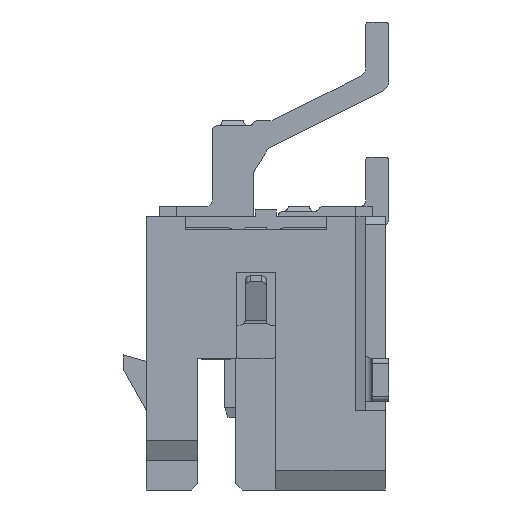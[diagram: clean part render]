
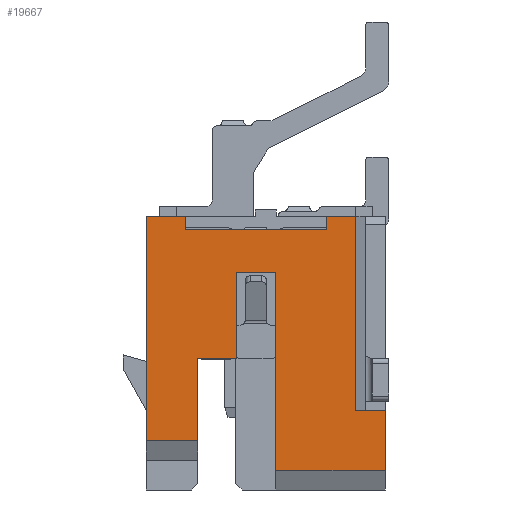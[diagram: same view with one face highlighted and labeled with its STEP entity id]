
A CAD part, front view. The second image highlights one B-rep face of the part: STEP entity #19667.
In plain terms, the highlighted planar face has unit normal (0, -1, 0).
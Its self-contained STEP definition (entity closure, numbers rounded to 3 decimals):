
#262 = EDGE_CURVE ( 'NONE', #23529, #38168, #24542, .T. ) ;
#322 = CARTESIAN_POINT ( 'NONE',  ( 4.67, 0.5, -9.5 ) ) ;
#1204 = ORIENTED_EDGE ( 'NONE', *, *, #16533, .T. ) ;
#1354 = DIRECTION ( 'NONE',  ( -1., 0., 0. ) ) ;
#1723 = ORIENTED_EDGE ( 'NONE', *, *, #39817, .F. ) ;
#2634 = DIRECTION ( 'NONE',  ( 1., 0., 0. ) ) ;
#2648 = VERTEX_POINT ( 'NONE', #7436 ) ;
#3170 = VERTEX_POINT ( 'NONE', #46085 ) ;
#4635 = VECTOR ( 'NONE', #38178, 1000. ) ;
#4806 = VERTEX_POINT ( 'NONE', #322 ) ;
#5258 = ORIENTED_EDGE ( 'NONE', *, *, #43968, .F. ) ;
#5313 = VERTEX_POINT ( 'NONE', #18651 ) ;
#5580 = LINE ( 'NONE', #36349, #14759 ) ;
#5999 = CARTESIAN_POINT ( 'NONE',  ( 8., 0.5, -9.5 ) ) ;
#6112 = CARTESIAN_POINT ( 'NONE',  ( 4.67, 0.5, -3.5 ) ) ;
#6268 = VERTEX_POINT ( 'NONE', #5999 ) ;
#7336 = EDGE_CURVE ( 'NONE', #10945, #2648, #5580, .T. ) ;
#7338 = DIRECTION ( 'NONE',  ( 1., 0., 0. ) ) ;
#7358 = ORIENTED_EDGE ( 'NONE', *, *, #12314, .F. ) ;
#7436 = CARTESIAN_POINT ( 'NONE',  ( 7.1, 0.5, -1.8 ) ) ;
#7565 = CARTESIAN_POINT ( 'NONE',  ( 7.1, 0.5, -7.7 ) ) ;
#7898 = CARTESIAN_POINT ( 'NONE',  ( 1.95, 0.5, -2.2 ) ) ;
#8043 = VECTOR ( 'NONE', #15419, 1000. ) ;
#8859 = CARTESIAN_POINT ( 'NONE',  ( 2.305, 0.5, -8.6 ) ) ;
#9010 = ORIENTED_EDGE ( 'NONE', *, *, #7336, .F. ) ;
#10081 = CARTESIAN_POINT ( 'NONE',  ( 4.375, 0.5, -5.2 ) ) ;
#10346 = FACE_OUTER_BOUND ( 'NONE', #11987, .T. ) ;
#10418 = ORIENTED_EDGE ( 'NONE', *, *, #23162, .F. ) ;
#10484 = CARTESIAN_POINT ( 'NONE',  ( 3.47, 0.5, -6.1 ) ) ;
#10945 = VERTEX_POINT ( 'NONE', #30837 ) ;
#11070 = CARTESIAN_POINT ( 'NONE',  ( 2.305, 0.5, -6.1 ) ) ;
#11136 = DIRECTION ( 'NONE',  ( 0., 0., -1. ) ) ;
#11265 = DIRECTION ( 'NONE',  ( -1., 0., 0. ) ) ;
#11445 = LINE ( 'NONE', #15192, #8043 ) ;
#11548 = VECTOR ( 'NONE', #41557, 1000. ) ;
#11747 = CARTESIAN_POINT ( 'NONE',  ( 4.67, 0.5, -3.5 ) ) ;
#11987 = EDGE_LOOP ( 'NONE', ( #43796, #32483, #40814, #9010, #1204, #39742, #40513, #10418, #30753, #7358, #48809, #17754, #32404, #5258, #31139, #1723 ) ) ;
#12314 = EDGE_CURVE ( 'NONE', #12848, #23529, #15235, .T. ) ;
#12848 = VERTEX_POINT ( 'NONE', #8859 ) ;
#13065 = EDGE_CURVE ( 'NONE', #45698, #12848, #37619, .T. ) ;
#13362 = DIRECTION ( 'NONE',  ( 0., 0., 1. ) ) ;
#13455 = LINE ( 'NONE', #10484, #41837 ) ;
#14759 = VECTOR ( 'NONE', #36094, 1000. ) ;
#14922 = VECTOR ( 'NONE', #20014, 1000. ) ;
#15192 = CARTESIAN_POINT ( 'NONE',  ( 3.47, 0.5, -6.1 ) ) ;
#15235 = LINE ( 'NONE', #22193, #22067 ) ;
#15419 = DIRECTION ( 'NONE',  ( 0., 0., 1. ) ) ;
#15685 = CARTESIAN_POINT ( 'NONE',  ( 0.75, 0.5, -8.6 ) ) ;
#16053 = LINE ( 'NONE', #16274, #14922 ) ;
#16274 = CARTESIAN_POINT ( 'NONE',  ( 8., 0.5, -9.5 ) ) ;
#16533 = EDGE_CURVE ( 'NONE', #10945, #31776, #25285, .T. ) ;
#16733 = VECTOR ( 'NONE', #24523, 1000. ) ;
#16897 = VECTOR ( 'NONE', #38976, 1000. ) ;
#17290 = CARTESIAN_POINT ( 'NONE',  ( 1.95, 0.5, -1.8 ) ) ;
#17326 = LINE ( 'NONE', #28497, #25218 ) ;
#17754 = ORIENTED_EDGE ( 'NONE', *, *, #46607, .F. ) ;
#17926 = DIRECTION ( 'NONE',  ( -1., 0., 0. ) ) ;
#18428 = CARTESIAN_POINT ( 'NONE',  ( 0.75, 0.5, -1.8 ) ) ;
#18527 = DIRECTION ( 'NONE',  ( 0., 0., -1. ) ) ;
#18651 = CARTESIAN_POINT ( 'NONE',  ( 4.67, 0.5, -3.5 ) ) ;
#19480 = CARTESIAN_POINT ( 'NONE',  ( 6.2, 0.5, -2.2 ) ) ;
#19667 = ADVANCED_FACE ( 'NONE', ( #10346 ), #40633, .F. ) ;
#19878 = CARTESIAN_POINT ( 'NONE',  ( 8., 0.5, -9.5 ) ) ;
#20014 = DIRECTION ( 'NONE',  ( 0., 0., 1. ) ) ;
#20242 = LINE ( 'NONE', #35364, #41098 ) ;
#20664 = AXIS2_PLACEMENT_3D ( 'NONE', #10081, #47821, #2634 ) ;
#21267 = DIRECTION ( 'NONE',  ( 0., 0., -1. ) ) ;
#21290 = DIRECTION ( 'NONE',  ( 0., 0., -1. ) ) ;
#22067 = VECTOR ( 'NONE', #11265, 1000. ) ;
#22193 = CARTESIAN_POINT ( 'NONE',  ( 2.305, 0.5, -8.6 ) ) ;
#23162 = EDGE_CURVE ( 'NONE', #38168, #47949, #32716, .T. ) ;
#23210 = LINE ( 'NONE', #7565, #43214 ) ;
#23529 = VERTEX_POINT ( 'NONE', #15685 ) ;
#23854 = LINE ( 'NONE', #19878, #16897 ) ;
#24523 = DIRECTION ( 'NONE',  ( 1., 0., 0. ) ) ;
#24542 = LINE ( 'NONE', #39677, #32616 ) ;
#24894 = CARTESIAN_POINT ( 'NONE',  ( 1.95, 0.5, -2.2 ) ) ;
#25218 = VECTOR ( 'NONE', #21290, 1000. ) ;
#25285 = LINE ( 'NONE', #30487, #26159 ) ;
#26159 = VECTOR ( 'NONE', #11136, 1000. ) ;
#28497 = CARTESIAN_POINT ( 'NONE',  ( 7.1, 0.5, -1.8 ) ) ;
#30487 = CARTESIAN_POINT ( 'NONE',  ( 6.2, 0.5, -1.8 ) ) ;
#30753 = ORIENTED_EDGE ( 'NONE', *, *, #262, .F. ) ;
#30837 = CARTESIAN_POINT ( 'NONE',  ( 6.2, 0.5, -1.8 ) ) ;
#31139 = ORIENTED_EDGE ( 'NONE', *, *, #43463, .T. ) ;
#31776 = VERTEX_POINT ( 'NONE', #19480 ) ;
#32404 = ORIENTED_EDGE ( 'NONE', *, *, #38153, .T. ) ;
#32483 = ORIENTED_EDGE ( 'NONE', *, *, #42088, .F. ) ;
#32616 = VECTOR ( 'NONE', #13362, 1000. ) ;
#32716 = LINE ( 'NONE', #45046, #16733 ) ;
#33576 = VERTEX_POINT ( 'NONE', #24894 ) ;
#34268 = VERTEX_POINT ( 'NONE', #47347 ) ;
#34305 = EDGE_CURVE ( 'NONE', #2648, #34268, #17326, .T. ) ;
#34510 = EDGE_CURVE ( 'NONE', #6268, #3170, #16053, .T. ) ;
#34795 = EDGE_CURVE ( 'NONE', #31776, #33576, #20242, .T. ) ;
#35364 = CARTESIAN_POINT ( 'NONE',  ( 6.2, 0.5, -2.2 ) ) ;
#35800 = VECTOR ( 'NONE', #18527, 1000. ) ;
#36094 = DIRECTION ( 'NONE',  ( 1., 0., 0. ) ) ;
#36349 = CARTESIAN_POINT ( 'NONE',  ( 6.2, 0.5, -1.8 ) ) ;
#36940 = CARTESIAN_POINT ( 'NONE',  ( 3.47, 0.5, -6.1 ) ) ;
#37447 = VERTEX_POINT ( 'NONE', #36940 ) ;
#37619 = LINE ( 'NONE', #11070, #35800 ) ;
#38153 = EDGE_CURVE ( 'NONE', #37447, #41436, #11445, .T. ) ;
#38168 = VERTEX_POINT ( 'NONE', #18428 ) ;
#38178 = DIRECTION ( 'NONE',  ( 0., 0., 1. ) ) ;
#38976 = DIRECTION ( 'NONE',  ( -1., 0., 0. ) ) ;
#39677 = CARTESIAN_POINT ( 'NONE',  ( 0.75, 0.5, -8.6 ) ) ;
#39742 = ORIENTED_EDGE ( 'NONE', *, *, #34795, .T. ) ;
#39817 = EDGE_CURVE ( 'NONE', #6268, #4806, #23854, .T. ) ;
#40513 = ORIENTED_EDGE ( 'NONE', *, *, #47687, .T. ) ;
#40633 = PLANE ( 'NONE',  #20664 ) ;
#40639 = LINE ( 'NONE', #6112, #46485 ) ;
#40814 = ORIENTED_EDGE ( 'NONE', *, *, #34305, .F. ) ;
#41098 = VECTOR ( 'NONE', #1354, 1000. ) ;
#41215 = CARTESIAN_POINT ( 'NONE',  ( 2.305, 0.5, -6.1 ) ) ;
#41436 = VERTEX_POINT ( 'NONE', #47349 ) ;
#41557 = DIRECTION ( 'NONE',  ( -1., 0., 0. ) ) ;
#41651 = LINE ( 'NONE', #7898, #4635 ) ;
#41837 = VECTOR ( 'NONE', #17926, 1000. ) ;
#42088 = EDGE_CURVE ( 'NONE', #34268, #3170, #23210, .T. ) ;
#43214 = VECTOR ( 'NONE', #7338, 1000. ) ;
#43463 = EDGE_CURVE ( 'NONE', #5313, #4806, #40639, .T. ) ;
#43796 = ORIENTED_EDGE ( 'NONE', *, *, #34510, .T. ) ;
#43968 = EDGE_CURVE ( 'NONE', #5313, #41436, #45759, .T. ) ;
#45046 = CARTESIAN_POINT ( 'NONE',  ( 0.75, 0.5, -1.8 ) ) ;
#45698 = VERTEX_POINT ( 'NONE', #41215 ) ;
#45759 = LINE ( 'NONE', #11747, #11548 ) ;
#46085 = CARTESIAN_POINT ( 'NONE',  ( 8., 0.5, -7.7 ) ) ;
#46485 = VECTOR ( 'NONE', #21267, 1000. ) ;
#46607 = EDGE_CURVE ( 'NONE', #37447, #45698, #13455, .T. ) ;
#47347 = CARTESIAN_POINT ( 'NONE',  ( 7.1, 0.5, -7.7 ) ) ;
#47349 = CARTESIAN_POINT ( 'NONE',  ( 3.47, 0.5, -3.5 ) ) ;
#47687 = EDGE_CURVE ( 'NONE', #33576, #47949, #41651, .T. ) ;
#47821 = DIRECTION ( 'NONE',  ( 0., 1., 0. ) ) ;
#47949 = VERTEX_POINT ( 'NONE', #17290 ) ;
#48809 = ORIENTED_EDGE ( 'NONE', *, *, #13065, .F. ) ;
